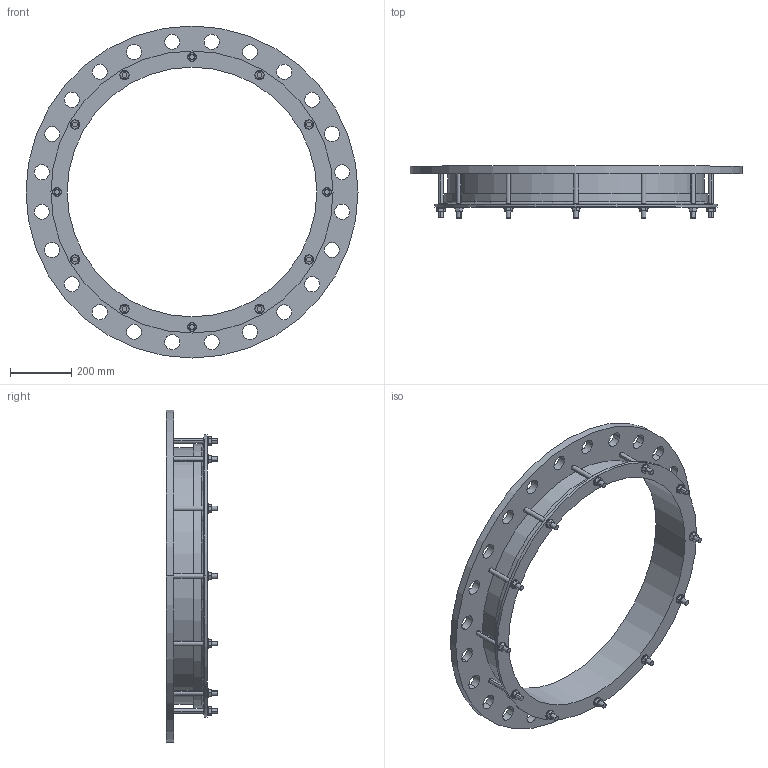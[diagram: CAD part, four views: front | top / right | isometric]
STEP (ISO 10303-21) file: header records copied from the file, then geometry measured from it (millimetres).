
FILE_DESCRIPTION((''),'2;1');
FILE_NAME('813X800PN25','2019-04-04T',('mfairey'),('Glynwed Pipe Systems'),'CREO PARAMETRIC BY PTC INC, 2016130','CREO PARAMETRIC BY PTC INC, 2016130','');
FILE_SCHEMA(('CONFIG_CONTROL_DESIGN'));
Length unit declared in the file: millimetre
Products named in the file (1): 813X800PN25
Bounding box: 1085 x 169 x 1085 mm (x, y, z)
Volume: 14773949 mm3; surface area: 1824185.9 mm2
Topology: 1 solids, 1 shells, 246 faces, 650 edges, 432 vertices
Faces by surface type: cylinder 128, plane 112, cone 4, torus 2
Entity records: 8666 total; most frequent: CARTESIAN_POINT 2220, DIRECTION 1340, ORIENTED_EDGE 1300, EDGE_CURVE 650, AXIS2_PLACEMENT_3D 496, VERTEX_POINT 432, VECTOR 348, LINE 348
